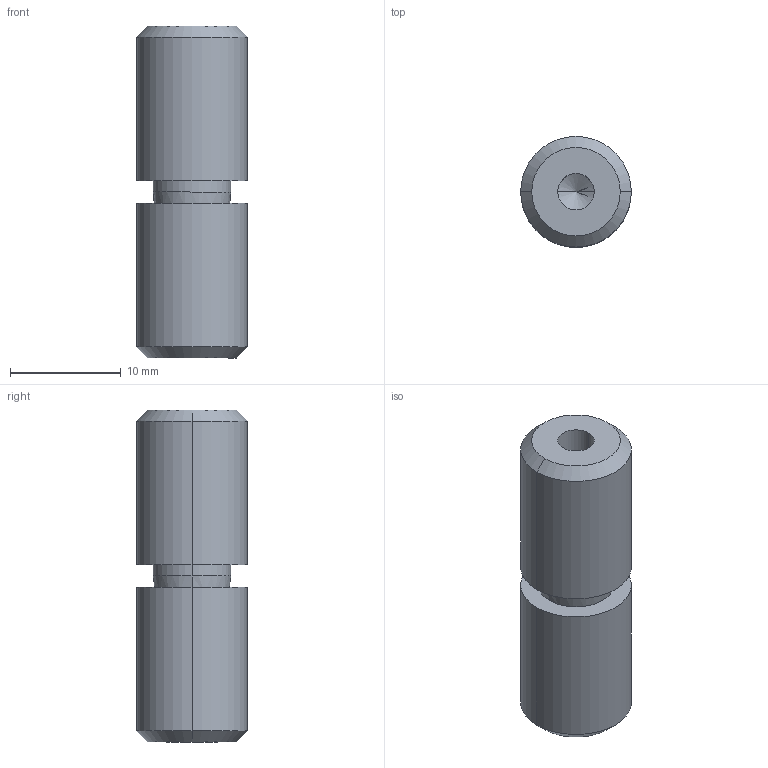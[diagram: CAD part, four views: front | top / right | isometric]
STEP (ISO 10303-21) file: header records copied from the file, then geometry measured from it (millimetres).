
FILE_DESCRIPTION (( 'STEP AP214' ), '1' );
FILE_NAME ('VTPN10-5.STEP', '2024-05-30T21:38:02', ( '' ), ( '' ), 'SwSTEP 2.0', 'SolidWorks 2017', '' );
FILE_SCHEMA (( 'AUTOMOTIVE_DESIGN' ));
Length unit declared in the file: millimetre
Products named in the file (3): VTPNP10-5; VTPNB10-5; VTPN10-5
Assembly tree (2 placements, depth 2):
  VTPN10-5
    VTPNP10-5
    VTPNB10-5
Bounding box: 10 x 10 x 30 mm (x, y, z)
Volume: 1983.9 mm3; surface area: 1572.3 mm2
Topology: 2 solids, 2 shells, 31 faces, 62 edges, 35 vertices
Faces by surface type: cylinder 12, cone 12, plane 5, torus 2
Entity records: 948 total; most frequent: DIRECTION 168, CARTESIAN_POINT 131, ORIENTED_EDGE 120, AXIS2_PLACEMENT_3D 72, EDGE_CURVE 60, CIRCLE 36, EDGE_LOOP 35, VERTEX_POINT 35
